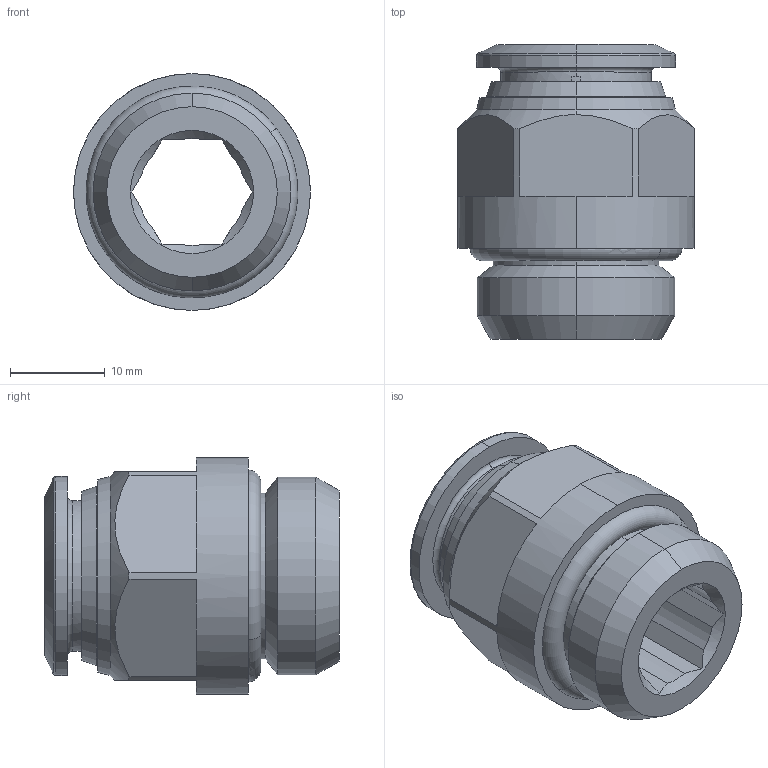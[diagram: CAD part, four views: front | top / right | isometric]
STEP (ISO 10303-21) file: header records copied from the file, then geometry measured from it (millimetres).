
FILE_DESCRIPTION (( 'STEP AP214' ), '1' );
FILE_NAME ('40020V0025A.STEP', '2024-10-21T13:12:04', ( '' ), ( '' ), 'SwSTEP 2.0', 'SolidWorks 2020', '' );
FILE_SCHEMA (( 'AUTOMOTIVE_DESIGN' ));
Length unit declared in the file: millimetre
Products named in the file (1): 40020V0025A
Bounding box: 25 x 31.1 x 25 mm (x, y, z)
Volume: 7040.2 mm3; surface area: 4441.9 mm2
Topology: 1 solids, 1 shells, 85 faces, 210 edges, 132 vertices
Faces by surface type: plane 37, cylinder 22, cone 20, torus 6
Entity records: 3592 total; most frequent: CARTESIAN_POINT 620, DIRECTION 442, ORIENTED_EDGE 420, EDGE_CURVE 210, AXIS2_PLACEMENT_3D 178, VERTEX_POINT 132, EDGE_LOOP 92, CIRCLE 92
